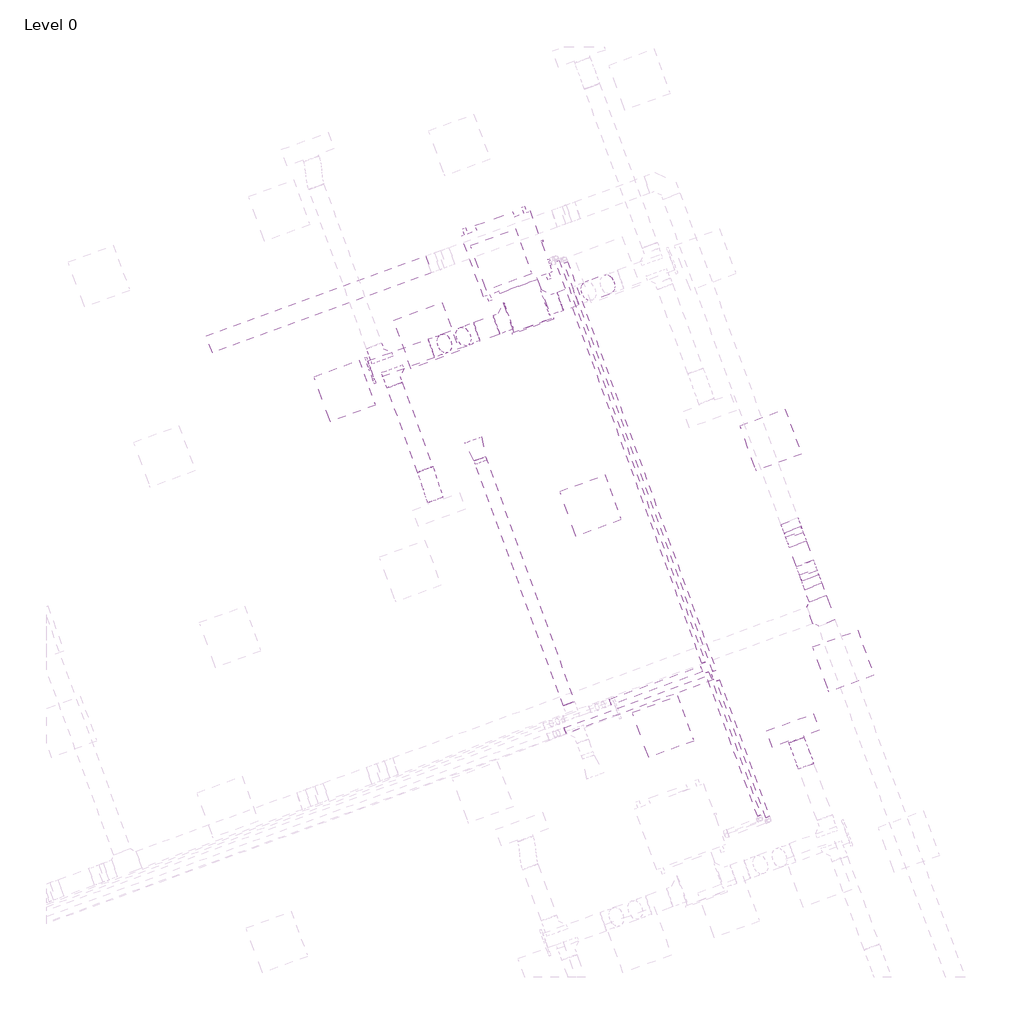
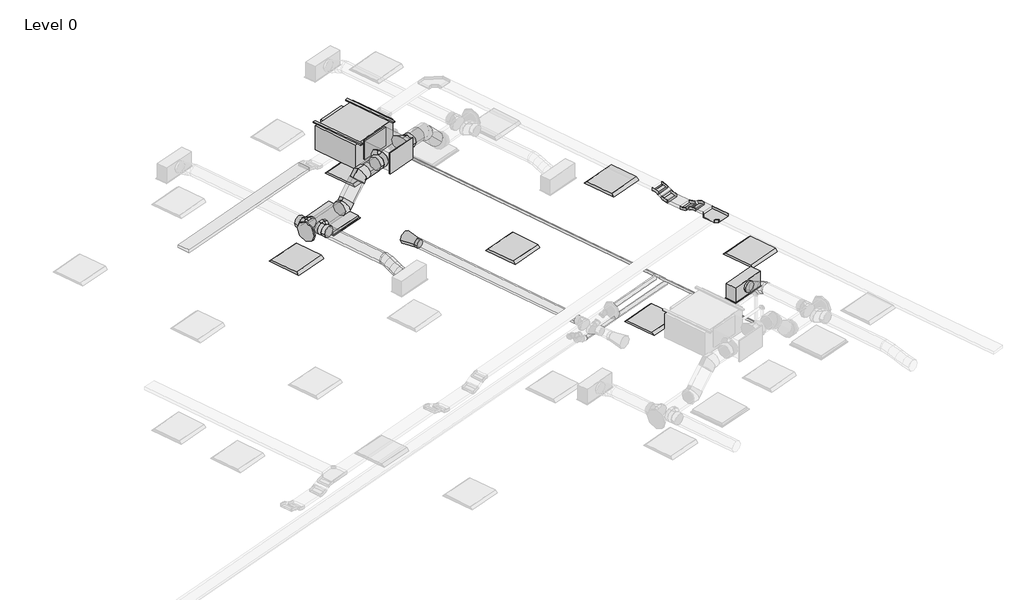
# One storey, part 32 of 34: 10 duct segments, 8 duct fittings, 6 light fixtures, 6 pipe segments, 5 cable carrier fittings, 5 cable carrier segments, 3 air terminals, 1 proxy.
"""IFC4 building model written with IfcOpenShell, lengths in millimetres."""

from ifc_helpers import new_model, si_unit, point, frame, frame_2d, origin, place, context, project, spatial, polyline, circle_curve, ellipse_curve, trimmed, segment, composite_curve, outline, extrude, transform, mapped, element, save
from ifc_brep_helpers import plane_surface, cylinder_surface, advanced_brep
from components import air_terminal_b88b8e4d, return_grille_rectangular_hosted_standard_7b12617c, supply_diffuser_with_plenum_linear_slot_hosted_8c379eed, fan_coil_unit_ceiling_ducted_chw_376_lps_9c8cc8ac, cable_tray_horizontal_tee_standard_d76b5e15, cable_tray_vertical_inside_bend_standard_9a66f55b, cable_tray_vertical_outside_bend_standard_4df2047e, dw144_rectangular_blank_end_standard_1669e3e3, dw144_round_blank_end_standard_e3d0b58b, dw144_round_segmented_bend_slip_joint_standard_636bd9c1, dw144_round_shoe_branch_slip_joint1_standard_2_559552f4, dw144_round_shoe_branch_slip_joint1_standard_2_4a92c8a1, dw144_round_shoe_branch_slip_joint1_standard_2_671412f0, light_fixture_1c7c1157, light_fixture_b730b5ca

model = new_model("IFC4")

# Units and contexts
model_context = context("Model", 3, world=origin())
ifc_project = project(units=[si_unit("LENGTHUNIT", "METRE", prefix="MILLI")], contexts=[model_context])

# Site, building, storey
site = spatial("IfcSite", under=ifc_project)
building = spatial("IfcBuilding", under=site)
storey = spatial("IfcBuildingStorey", under=building, Name="Level 0", Elevation=0.0)

# Air terminals
placement = place(None, origin())
air_terminal_shape = air_terminal_b88b8e4d(model_context)
element("IfcAirTerminal", 1, ObjectType="Supply_Bell_Mouth_Grille : Supply_Bell_Mouth_Grille", at=placement, inside=storey, context=model_context, shape_type="MappedRepresentation", body=[
    mapped(air_terminal_shape, transform((58081.5319053, 19738.0197173, 3050.0), x_axis=(-0.3420201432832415, 0.9396926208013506, 0.0), y_axis=(-0.9396926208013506, -0.3420201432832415, 0.0), z_axis=(0.0, 0.0, 1.0))),
])
return_grille_rectangular_hosted_standard_shape = return_grille_rectangular_hosted_standard_7b12617c(model_context)
element("IfcAirTerminal", 2, ObjectType="Return Grille - Rectangular - Hosted : Standard", at=placement, inside=storey, context=model_context, shape_type="MappedRepresentation", body=[
    mapped(return_grille_rectangular_hosted_standard_shape, transform((57415.537706, 21278.3997704, 2800.0), x_axis=(0.939692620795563, 0.34202014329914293, 0.0), y_axis=(0.34202014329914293, -0.939692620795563, 0.0), z_axis=(0.0, 0.0, -1.0))),
])
supply_diffuser_with_plenum_linear_slot_hosted_shape = supply_diffuser_with_plenum_linear_slot_hosted_8c379eed(model_context)
element("IfcAirTerminal", 3, ObjectType="Supply Diffuser with Plenum - Linear Slot - Hosted : 24\" x 8\"-200 In Inlet  4-Slot", at=placement, inside=storey, context=model_context, shape_type="MappedRepresentation", body=[
    mapped(supply_diffuser_with_plenum_linear_slot_hosted_shape, transform((62001.2706716, 16338.1811806, 2800.0), x_axis=(-0.9396926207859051, -0.3420201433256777, 0.0), y_axis=(-0.3420201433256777, 0.9396926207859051, 0.0), z_axis=(0.0, 0.0, -1.0))),
])

# Proxy
fan_coil_unit_ceiling_ducted_chw_376_lps_shape = fan_coil_unit_ceiling_ducted_chw_376_lps_9c8cc8ac(model_context)
element("IfcBuildingElementProxy", 4, Name="Fan Coil Unit - Ceiling Ducted - CHW : 376 LPS", ObjectType="Fan Coil Unit - Ceiling Ducted - CHW : 376 LPS", at=placement, inside=storey, context=model_context, shape_type="MappedRepresentation", body=[
    mapped(fan_coil_unit_ceiling_ducted_chw_376_lps_shape, transform((58128.3265173, 21761.0235029, 3215.575), x_axis=(0.9396926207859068, 0.34202014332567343, 0.0), y_axis=(-0.34202014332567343, 0.9396926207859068, 0.0), z_axis=(0.0, 0.0, 1.0))),
])

# Cable carrier fittings
cable_tray_horizontal_tee_standard_shape = cable_tray_horizontal_tee_standard_d76b5e15(model_context)
element("IfcCableCarrierFitting", 5, ObjectType="Cable Tray Horizontal Tee : Standard", at=placement, inside=storey, context=model_context, shape_type="MappedRepresentation", body=[
    mapped(cable_tray_horizontal_tee_standard_shape, transform((62366.6932534, 17834.0619919, 3248.9627355), x_axis=(0.3420201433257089, -0.9396926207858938, 0.0), y_axis=(0.9396926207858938, 0.3420201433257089, 0.0), z_axis=(0.0, 0.0, 1.0))),
])
cable_tray_vertical_inside_bend_standard_shape = cable_tray_vertical_inside_bend_standard_9a66f55b(model_context)
element("IfcCableCarrierFitting", 6, ObjectType="Cable Tray Vertical Inside Bend : Standard", at=placement, inside=storey, context=model_context, shape_type="MappedRepresentation", body=[
    mapped(cable_tray_vertical_inside_bend_standard_shape, transform((62173.4812107, 18364.9077165, 3148.9627355), x_axis=(0.3420201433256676, -0.9396926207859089, 0.0), y_axis=(0.0, 0.0, 1.0000000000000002), z_axis=(-0.9396926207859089, -0.3420201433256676, 0.0))),
])
element("IfcCableCarrierFitting", 7, ObjectType="Cable Tray Vertical Inside Bend : Standard", at=placement, inside=storey, context=model_context, shape_type="MappedRepresentation", body=[
    mapped(cable_tray_vertical_inside_bend_standard_shape, transform((62039.8978743, 18731.9249168, 3148.9627355), x_axis=(0.29619813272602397, -0.8137976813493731, -0.5000000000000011), y_axis=(0.17101007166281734, -0.4698463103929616, 0.8660254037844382), z_axis=(-0.9396926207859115, -0.3420201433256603, 0.0))),
])
cable_tray_vertical_outside_bend_standard_shape = cable_tray_vertical_outside_bend_standard_4df2047e(model_context)
element("IfcCableCarrierFitting", 8, ObjectType="Cable Tray Vertical Outside Bend : Standard", at=placement, inside=storey, context=model_context, shape_type="MappedRepresentation", body=[
    mapped(cable_tray_vertical_outside_bend_standard_shape, transform((62232.7208373, 18202.1481802, 3248.9627355), x_axis=(-0.34202014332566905, 0.9396926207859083, 0.0), y_axis=(0.0, 0.0, -1.0), z_axis=(-0.9396926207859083, -0.34202014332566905, 0.0))),
])
element("IfcCableCarrierFitting", 9, ObjectType="Cable Tray Vertical Outside Bend : Standard", at=placement, inside=storey, context=model_context, shape_type="MappedRepresentation", body=[
    mapped(cable_tray_vertical_outside_bend_standard_shape, transform((61980.6582478, 18894.6844531, 3248.9627355), x_axis=(-0.29619813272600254, 0.8137976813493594, 0.500000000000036), y_axis=(-0.1710100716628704, 0.4698463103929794, -0.866025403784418), z_axis=(-0.9396926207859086, -0.3420201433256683, 0.0))),
])

# Cable carrier segments
element("IfcCableCarrierSegment", 10, ObjectType="Perforated Cable Tray", at=placement, inside=storey, context=model_context, shape_type="SweptSolid", body=[
    extrude(outline(polyline([(62416.8304, 18025.2393089), (62205.3995603, 17948.2847766), (62149.9164227, 18100.7234443), (62361.3472624, 18177.6779766), (62416.8304, 18025.2393089)])), frame((0.0, 0.0, 3223.9627355), z_axis=(0.0, 0.0, 1.0), x_axis=(1.0, 0.0, 0.0)), (0.0, 0.0, 1.0), 50.0),
])
element("IfcCableCarrierSegment", 11, ObjectType="Perforated Cable Tray", at=placement, inside=storey, context=model_context, shape_type="SweptSolid", body=[
    extrude(outline(polyline([(0.0, -225.0), (0.0, 0.0), (66.0254038, 0.0), (66.0254037, -225.0), (0.0, -225.0)])), frame((62111.4391566, 18206.4388642, 3193.8184513), z_axis=(-0.1710100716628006, 0.4698463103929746, 0.8660254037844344), x_axis=(-0.29619813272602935, 0.8137976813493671, -0.5000000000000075)), (0.0, 0.0, 1.0), 50.0),
])
element("IfcCableCarrierSegment", 12, ObjectType="Perforated Cable Tray", at=placement, inside=storey, context=model_context, shape_type="SweptSolid", body=[
    extrude(outline(polyline([(62256.2856253, 18466.3324523), (62044.8547856, 18389.3779201), (61957.0934598, 18630.500181), (62168.5242995, 18707.4547132), (62256.2856253, 18466.3324523)])), frame((0.0, 0.0, 3123.9627355), z_axis=(0.0, 0.0, 1.0), x_axis=(1.0, 0.0, 0.0)), (0.0, 0.0, 1.0), 50.0),
])
element("IfcCableCarrierSegment", 13, ObjectType="Perforated Cable Tray", at=placement, inside=storey, context=model_context, shape_type="SweptSolid", body=[
    extrude(outline(polyline([(0.0, -225.0), (0.0, 0.0), (66.0254038, 0.0), (66.0254038, -225.0), (0.0, -225.0)])), frame((61910.0656901, 18759.7079163, 3160.8057494), z_axis=(0.17101007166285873, -0.469846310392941, 0.866025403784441), x_axis=(-0.2961981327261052, 0.8137976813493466, 0.49999999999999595)), (0.0, 0.0, 1.0), 50.0),
])
element("IfcCableCarrierSegment", 14, ObjectType="Perforated Cable Tray", at=placement, inside=storey, context=model_context, shape_type="SweptSolid", body=[
    extrude(outline(polyline([(57404.0868122, 22274.5262105), (57481.0413445, 22063.0953708), (54735.1563016, 21063.6749485), (54658.2017694, 21275.1057882), (57404.0868122, 22274.5262105)])), frame((0.0, 0.0, 3223.9627355), z_axis=(0.0, 0.0, 1.0), x_axis=(1.0, 0.0, 0.0)), (0.0, 0.0, 1.0), 50.0),
])

# Duct fittings
dw144_rectangular_blank_end_standard_shape = dw144_rectangular_blank_end_standard_1669e3e3(model_context)
element("IfcDuctFitting", 15, ObjectType="DW144 Rectangular Blank End : Standard", at=placement, inside=storey, context=model_context, shape_type="MappedRepresentation", body=[
    mapped(dw144_rectangular_blank_end_standard_shape, transform((58744.3549616, 21405.2626341, 3469.575), x_axis=(0.34202014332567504, -0.9396926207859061, 0.0), y_axis=(0.9396926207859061, 0.34202014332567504, 0.0), z_axis=(0.0, 0.0, 1.0))),
])
dw144_round_blank_end_standard_shape = dw144_round_blank_end_standard_e3d0b58b(model_context)
element("IfcDuctFitting", 16, ObjectType="DW144 Round Blank End : Standard", at=placement, inside=storey, context=model_context, shape_type="MappedRepresentation", body=[
    mapped(dw144_round_blank_end_standard_shape, transform((56721.6415567, 20844.3987052, 3072.2088531), x_axis=(-0.9396926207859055, -0.3420201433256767, 0.0), y_axis=(0.3420201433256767, -0.9396926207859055, 0.0), z_axis=(0.0, 0.0, 1.0))),
])
dw144_round_segmented_bend_slip_joint_standard_shape = dw144_round_segmented_bend_slip_joint_standard_636bd9c1(model_context)
element("IfcDuctFitting", 17, ObjectType="DW144 Round Segmented Bend - Slip Joint : Standard", at=placement, inside=storey, context=model_context, shape_type="MappedRepresentation", body=[
    mapped(dw144_round_segmented_bend_slip_joint_standard_shape, transform((57572.2414269, 21153.9917392, 3072.2088531), x_axis=(-0.6644630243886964, -0.24184476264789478, -0.7071067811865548), y_axis=(-0.6644630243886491, -0.24184476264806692, 0.7071067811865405), z_axis=(-0.34202014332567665, 0.9396926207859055, 0.0))),
])
element("IfcDuctFitting", 18, ObjectType="DW144 Round Segmented Bend - Slip Joint : Standard", at=placement, inside=storey, context=model_context, shape_type="MappedRepresentation", body=[
    mapped(dw144_round_segmented_bend_slip_joint_standard_shape, transform((57945.6434628, 21289.8989657, 3469.575), x_axis=(-0.9396926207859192, -0.3420201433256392, 0.0), y_axis=(0.0, 0.0, -1.0000000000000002), z_axis=(0.3420201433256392, -0.9396926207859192, 0.0))),
])
dw144_round_shoe_branch_slip_joint1_standard_2_shape = dw144_round_shoe_branch_slip_joint1_standard_2_559552f4(model_context)
element("IfcDuctFitting", 19, ObjectType="DW144 Round Shoe Branch - Slip Joint1 : Standard 2", at=placement, inside=storey, context=model_context, shape_type="MappedRepresentation", body=[
    mapped(dw144_round_shoe_branch_slip_joint1_standard_2_shape, transform((56809.7266884, 21009.4812928, 3072.2088531), x_axis=(-0.3420201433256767, 0.9396926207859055, 0.0), y_axis=(0.9396926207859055, 0.3420201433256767, 0.0), z_axis=(0.0, 0.0, -1.0))),
])
element("IfcDuctFitting", 20, ObjectType="DW144 Round Shoe Branch - Slip Joint1 : Standard 2", at=placement, inside=storey, context=model_context, shape_type="MappedRepresentation", body=[
    mapped(dw144_round_shoe_branch_slip_joint1_standard_2_shape, transform((56963.7838783, 20799.5090812, 3072.2088531), x_axis=(0.3420201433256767, -0.9396926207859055, 0.0), y_axis=(0.9396926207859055, 0.3420201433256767, 0.0), z_axis=(0.0, 0.0, 1.0))),
])
dw144_round_shoe_branch_slip_joint1_standard_2_2_shape = dw144_round_shoe_branch_slip_joint1_standard_2_4a92c8a1(model_context)
element("IfcDuctFitting", 21, ObjectType="DW144 Round Shoe Branch - Slip Joint1 : Standard 2", at=placement, inside=storey, context=model_context, shape_type="MappedRepresentation", body=[
    mapped(dw144_round_shoe_branch_slip_joint1_standard_2_2_shape, transform((58922.9237884, 21645.5999148, 3469.575), x_axis=(0.9396926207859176, 0.3420201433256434, 0.0), y_axis=(0.3420201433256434, -0.9396926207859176, 0.0), z_axis=(0.0, 0.0, -1.0))),
])
dw144_round_shoe_branch_slip_joint1_standard_2_3_shape = dw144_round_shoe_branch_slip_joint1_standard_2_671412f0(model_context)
element("IfcDuctFitting", 22, ObjectType="DW144 Round Shoe Branch - Slip Joint1 : Standard 2", at=placement, inside=storey, context=model_context, shape_type="MappedRepresentation", body=[
    mapped(dw144_round_shoe_branch_slip_joint1_standard_2_3_shape, transform((58453.077478, 21474.5898431, 3469.575), x_axis=(-0.9396926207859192, -0.3420201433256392, 0.0), y_axis=(-0.3420201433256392, 0.9396926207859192, 0.0), z_axis=(0.0, 0.0, -1.0))),
])

# Duct segments
element("IfcDuctSegment", 23, ObjectType="DW144 Flanged Med Radius Bend / Shoe Branch", at=placement, inside=storey, context=model_context, shape_type="SweptSolid", body=[
    extrude(outline(polyline([(58331.71814, 21808.0218841), (58801.5644504, 21979.0319557), (58979.2781168, 21490.76767), (58509.4318064, 21319.7575983), (58331.71814, 21808.0218841)])), frame((0.0, 0.0, 3294.575), z_axis=(0.0, 0.0, 1.0), x_axis=(1.0, 0.0, 0.0)), (0.0, 0.0, 1.0), 350.0),
])
element("IfcDuctSegment", 24, ObjectType="DW144 Segmented Bend / Shoe Branch", at=placement, inside=storey, context=model_context, shape_type="SweptSolid", body=[
    extrude(outline(composite_curve([segment(trimmed(circle_curve(frame_2d((0.0, 125.0)), 125.0), [point((125.0, 125.0))], [point((0.0, 0.0))], False, "CARTESIAN"), True, "CONTINUOUS"), segment(trimmed(circle_curve(frame_2d((0.0, 125.0)), 125.0), [point((0.0, 0.0))], [point((-125.0, 125.0))], False, "CARTESIAN"), True, "CONTINUOUS"), segment(trimmed(circle_curve(frame_2d((0.0, 125.0)), 125.0), [point((-125.0, 125.0))], [point((0.0, 250.0))], False, "CARTESIAN"), True, "CONTINUOUS"), segment(trimmed(circle_curve(frame_2d((0.0, 125.0)), 125.0), [point((0.0, 250.0))], [point((125.0, 125.0))], False, "CARTESIAN"), True, "CONTINUOUS")], self_intersect=False)), frame((56721.6415567, 20844.3987052, 3197.2088531), z_axis=(0.9396926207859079, 0.3420201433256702, 0.0), x_axis=(0.3420201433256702, -0.9396926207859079, 0.0)), (0.0, 0.0, 1.0), 801.6360845),
])
element("IfcDuctSegment", 25, ObjectType="DW144 Segmented Bend / Shoe Branch", at=placement, inside=storey, context=model_context, shape_type="SweptSolid", body=[
    extrude(outline(composite_curve([segment(trimmed(circle_curve(frame_2d((0.0, 100.0)), 100.0), [point((100.0, 100.0))], [point((0.0, 0.0))], False, "CARTESIAN"), True, "CONTINUOUS"), segment(trimmed(circle_curve(frame_2d((0.0, 100.0)), 100.0), [point((0.0, 0.0))], [point((-100.0, 100.0))], False, "CARTESIAN"), True, "CONTINUOUS"), segment(trimmed(circle_curve(frame_2d((0.0, 100.0)), 100.0), [point((-100.0, 100.0))], [point((0.0, 200.0))], False, "CARTESIAN"), True, "CONTINUOUS"), segment(trimmed(circle_curve(frame_2d((0.0, 100.0)), 100.0), [point((0.0, 200.0))], [point((100.0, 100.0))], False, "CARTESIAN"), True, "CONTINUOUS")], self_intersect=False)), frame((57399.1073496, 19603.4676736, 3172.2088531), z_axis=(-0.3420201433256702, 0.9396926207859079, 0.0), x_axis=(0.9396926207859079, 0.3420201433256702, 0.0)), (0.0, 0.0, 1.0), 1122.8006809),
])
element("IfcDuctSegment", 26, ObjectType="DW144 Segmented Bend / Shoe Branch", at=placement, inside=storey, context=model_context, shape_type="SweptSolid", body=[
    extrude(outline(composite_curve([segment(trimmed(circle_curve(frame_2d((0.0, 125.0)), 125.0), [point((125.0, 125.0))], [point((0.0, 0.0))], False, "CARTESIAN"), True, "CONTINUOUS"), segment(trimmed(circle_curve(frame_2d((0.0, 125.0)), 125.0), [point((0.0, 0.0))], [point((-125.0, 125.0))], False, "CARTESIAN"), True, "CONTINUOUS"), segment(trimmed(circle_curve(frame_2d((0.0, 125.0)), 125.0), [point((-125.0, 125.0))], [point((0.0, 250.0))], False, "CARTESIAN"), True, "CONTINUOUS"), segment(trimmed(circle_curve(frame_2d((0.0, 125.0)), 125.0), [point((0.0, 250.0))], [point((125.0, 125.0))], False, "CARTESIAN"), True, "CONTINUOUS")], self_intersect=False)), frame((59087.3699971, 21705.4534398, 3594.575), z_axis=(0.9396926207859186, 0.3420201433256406, 0.0), x_axis=(0.3420201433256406, -0.9396926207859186, 0.0)), (0.0, 0.0, 1.0), 201.4466094),
])
element("IfcDuctSegment", 27, ObjectType="DW144 Segmented Bend / Shoe Branch", at=placement, inside=storey, context=model_context, shape_type="SweptSolid", body=[
    extrude(outline(composite_curve([segment(trimmed(circle_curve(frame_2d((0.0, -125.0)), 125.0), [point((-125.0, -125.0))], [point((0.0, 0.0))], False, "CARTESIAN"), True, "CONTINUOUS"), segment(trimmed(circle_curve(frame_2d((0.0, -125.0)), 125.0), [point((0.0, 0.0))], [point((125.0, -125.0))], False, "CARTESIAN"), True, "CONTINUOUS"), segment(trimmed(circle_curve(frame_2d((0.0, -125.0)), 125.0), [point((125.0, -125.0))], [point((0.0, -250.0))], False, "CARTESIAN"), True, "CONTINUOUS"), segment(trimmed(circle_curve(frame_2d((0.0, -125.0)), 125.0), [point((0.0, -250.0))], [point((-125.0, -125.0))], False, "CARTESIAN"), True, "CONTINUOUS")], self_intersect=False)), frame((58042.9518198, 21325.3163112, 3344.575), z_axis=(0.9396926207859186, 0.3420201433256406, 0.0), x_axis=(0.3420201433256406, -0.9396926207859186, 0.0)), (0.0, 0.0, 1.0), 261.4466094),
])
element("IfcDuctSegment", 28, ObjectType="DW144 Segmented Bend / Shoe Branch", at=placement, inside=storey, context=model_context, shape_type="SweptSolid", body=[
    extrude(outline(composite_curve([segment(trimmed(circle_curve(frame_2d((0.0, -125.0)), 125.0), [point((57.2076922, -236.1408113))], [point((-111.1408114, -182.2076922))], False, "CARTESIAN"), True, "CONTINUOUS"), segment(trimmed(circle_curve(frame_2d((0.0, -125.0)), 125.0), [point((-111.1408114, -182.2076922))], [point((-57.2076923, -13.8591886))], False, "CARTESIAN"), True, "CONTINUOUS"), segment(trimmed(circle_curve(frame_2d((0.0, -125.0)), 125.0), [point((-57.2076923, -13.8591886))], [point((111.1408113, -67.7923077))], False, "CARTESIAN"), True, "CONTINUOUS"), segment(trimmed(circle_curve(frame_2d((0.0, -125.0)), 125.0), [point((111.1408113, -67.7923077))], [point((57.2076922, -236.1408113))], False, "CARTESIAN"), True, "CONTINUOUS")], self_intersect=False)), frame((59678.5708833, 22038.9065459, 3185.884105), z_axis=(-0.6644630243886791, -0.2418447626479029, 0.7071067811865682), x_axis=(0.7473211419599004, -0.21503058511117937, 0.6287073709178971)), (0.0, 0.0, 1.0), 354.8538129),
])
element("IfcDuctSegment", 29, ObjectType="DW144 Segmented Bend / Shoe Branch", at=placement, inside=storey, context=model_context, shape_type="SweptSolid", body=[
    extrude(outline(composite_curve([segment(trimmed(circle_curve(frame_2d((0.0, -124.9999999)), 125.0), [point((-57.2076923, -13.8591886))], [point((111.1408113, -67.7923077))], False, "CARTESIAN"), True, "CONTINUOUS"), segment(trimmed(circle_curve(frame_2d((0.0, -124.9999999)), 125.0), [point((111.1408113, -67.7923077))], [point((57.2076923, -236.1408113))], False, "CARTESIAN"), True, "CONTINUOUS"), segment(trimmed(circle_curve(frame_2d((0.0, -124.9999999)), 125.0), [point((57.2076923, -236.1408113))], [point((-111.1408114, -182.2076923))], False, "CARTESIAN"), True, "CONTINUOUS"), segment(trimmed(circle_curve(frame_2d((0.0, -124.9999999)), 125.0), [point((-111.1408114, -182.2076923))], [point((-57.2076923, -13.8591886))], False, "CARTESIAN"), True, "CONTINUOUS")], self_intersect=False)), frame((57641.048826, 21297.3091654, 3104.9802107), z_axis=(0.664463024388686, 0.24184476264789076, 0.7071067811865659), x_axis=(0.7473211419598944, -0.21503058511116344, -0.6287073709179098)), (0.0, 0.0, 1.0), 354.8538129),
])
element("IfcDuctSegment", 30, ObjectType="DW144 Segmented Bend / Shoe Branch", at=placement, inside=storey, context=model_context, shape_type="SweptSolid", body=[
    extrude(outline(composite_curve([segment(trimmed(circle_curve(frame_2d((0.0, 75.0)), 75.0), [point((75.0, 75.0))], [point((0.0, 0.0))], False, "CARTESIAN"), True, "CONTINUOUS"), segment(trimmed(circle_curve(frame_2d((0.0, 75.0)), 75.0), [point((0.0, 0.0))], [point((-75.0000001, 75.0))], False, "CARTESIAN"), True, "CONTINUOUS"), segment(trimmed(circle_curve(frame_2d((0.0, 75.0)), 75.0), [point((-75.0000001, 75.0))], [point((0.0, 150.0))], False, "CARTESIAN"), True, "CONTINUOUS"), segment(trimmed(circle_curve(frame_2d((0.0, 75.0)), 75.0), [point((0.0, 150.0))], [point((75.0, 75.0))], False, "CARTESIAN"), True, "CONTINUOUS")], self_intersect=False)), frame((59197.2979604, 16672.4776751, 3125.0), z_axis=(-0.3420201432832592, 0.9396926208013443, 0.0), x_axis=(0.9396926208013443, 0.3420201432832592, 0.0)), (0.0, 0.0, 1.0), 3262.2817019),
])
element("IfcDuctSegment", 31, ObjectType="Flex - Round", at=placement, inside=storey, context=model_context, shape_type="AdvancedBrep", body=[
    advanced_brep(
    [(57493.0766117, 19637.669688, 3072.2088531), (57399.1073496, 19603.4676736, 2972.2088531), (57305.1380875, 19569.2656593, 3072.2088531), (57399.1073496, 19603.4676736, 3172.2088531), (57499.4980825, 19620.026842, 3072.2088531), (57401.4856469, 19596.9333555, 2972.2088531), (57310.8290271, 19553.6299313, 3072.2088531), (57408.8414627, 19576.7234177, 3172.2088531), (57619.8473001, 19255.1615739, 2954.4), (57525.878038, 19220.9595595, 3054.4), (57431.9087759, 19186.7575452, 2954.4), (57525.878038, 19220.9595595, 2854.4), (57527.3186901, 19538.1260265, 3053.3905604), (57422.5860609, 19534.8160527, 2957.9362042), (57337.4354126, 19475.3036527, 3054.2118792), (57442.1680418, 19478.6136265, 3149.6662355), (57557.67714, 19442.8628872, 3012.5672617), (57450.2568433, 19447.9866655, 2920.7270377), (57367.3082476, 19381.5643459, 3014.0415914), (57474.7285444, 19376.4405676, 3105.8818154), (57587.5499751, 19349.1235804, 2972.3969739), (57482.8173458, 19345.8136066, 2876.9426177), (57397.6666975, 19286.3012066, 2973.2182927), (57502.3993268, 19289.6111804, 3068.6726489), (57614.1563605, 19270.7973019, 2954.4), (57516.1439249, 19247.7038155, 2854.4), (57425.4873052, 19204.4003912, 2954.4), (57523.4997407, 19227.4938776, 3054.4)],
    [
        (0, 1, circle_curve(frame((57399.1073496, 19603.4676736, 3072.2088531), z_axis=(-0.3420201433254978, 0.9396926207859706, 0.0), x_axis=(0.9396926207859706, 0.3420201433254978, 0.0)), 100.0)),
        (1, 2, circle_curve(frame((57399.1073496, 19603.4676736, 3072.2088531), z_axis=(-0.3420201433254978, 0.9396926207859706, 0.0), x_axis=(0.9396926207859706, 0.3420201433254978, 0.0)), 100.0)),
        (2, 3, circle_curve(frame((57399.1073496, 19603.4676736, 3072.2088531), z_axis=(-0.3420201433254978, 0.9396926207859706, 0.0), x_axis=(0.9396926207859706, 0.3420201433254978, 0.0)), 100.0)),
        (3, 0, circle_curve(frame((57399.1073496, 19603.4676736, 3072.2088531), z_axis=(-0.3420201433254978, 0.9396926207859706, 0.0), x_axis=(0.9396926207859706, 0.3420201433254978, 0.0)), 100.0)),
        (0, 4),
        (4, 5, ellipse_curve(frame((57405.1635548, 19586.8283866, 3072.2088531), z_axis=(-0.33006294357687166, 0.9378849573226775, 0.10691239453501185), x_axis=(-0.12907576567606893, 0.06735376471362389, -0.9893446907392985)), 100.582195, 100.0)),
        (5, 1),
        (5, 6, ellipse_curve(frame((57405.1635548, 19586.8283866, 3072.2088531), z_axis=(-0.33006294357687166, 0.9378849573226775, 0.10691239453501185), x_axis=(-0.12907576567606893, 0.06735376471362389, -0.9893446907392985)), 100.582195, 100.0)),
        (6, 2),
        (6, 7, ellipse_curve(frame((57405.1635548, 19586.8283866, 3072.2088531), z_axis=(-0.33006294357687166, 0.9378849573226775, 0.10691239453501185), x_axis=(-0.12907576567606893, 0.06735376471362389, -0.9893446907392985)), 100.582195, 100.0)),
        (7, 3),
        (7, 4, ellipse_curve(frame((57405.1635548, 19586.8283866, 3072.2088531), z_axis=(-0.33006294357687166, 0.9378849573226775, 0.10691239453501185), x_axis=(-0.12907576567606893, 0.06735376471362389, -0.9893446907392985)), 100.582195, 100.0)),
        (8, 9, circle_curve(frame((57525.878038, 19220.9595595, 2954.4), z_axis=(0.3420201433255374, -0.9396926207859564, 0.0), x_axis=(0.9396926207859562, 0.3420201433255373, 0.0)), 100.0)),
        (9, 10, circle_curve(frame((57525.878038, 19220.9595595, 2954.4), z_axis=(0.3420201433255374, -0.9396926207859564, 0.0), x_axis=(0.9396926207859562, 0.3420201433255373, 0.0)), 100.0)),
        (10, 11, circle_curve(frame((57525.878038, 19220.9595595, 2954.4), z_axis=(0.3420201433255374, -0.9396926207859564, 0.0), x_axis=(0.9396926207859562, 0.3420201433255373, 0.0)), 100.0)),
        (11, 8, circle_curve(frame((57525.878038, 19220.9595595, 2954.4), z_axis=(0.3420201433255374, -0.9396926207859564, 0.0), x_axis=(0.9396926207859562, 0.3420201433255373, 0.0)), 100.0)),
        (4, 12),
        (12, 13, ellipse_curve(frame((57432.3770513, 19506.7148396, 3053.8012198), z_axis=(-0.2988301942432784, 0.9071022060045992, 0.2964221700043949), x_axis=(-0.1905324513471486, 0.24764957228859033, -0.9499300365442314)), 100.3812182, 100.0)),
        (13, 5),
        (13, 14, ellipse_curve(frame((57432.3770513, 19506.7148396, 3053.8012198), z_axis=(-0.2988301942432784, 0.9071022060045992, 0.2964221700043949), x_axis=(-0.1905324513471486, 0.24764957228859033, -0.9499300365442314)), 100.3812182, 100.0)),
        (14, 6),
        (14, 15, ellipse_curve(frame((57432.3770513, 19506.7148396, 3053.8012198), z_axis=(-0.2988301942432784, 0.9071022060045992, 0.2964221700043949), x_axis=(-0.1905324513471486, 0.24764957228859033, -0.9499300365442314)), 100.3812182, 100.0)),
        (15, 7),
        (15, 12, ellipse_curve(frame((57432.3770513, 19506.7148396, 3053.8012198), z_axis=(-0.2988301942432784, 0.9071022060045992, 0.2964221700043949), x_axis=(-0.1905324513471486, 0.24764957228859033, -0.9499300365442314)), 100.3812182, 100.0)),
        (12, 16),
        (16, 17, circle_curve(frame((57462.4926938, 19412.2136166, 3013.3044266), z_axis=(-0.2811058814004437, 0.8820947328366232, 0.37800577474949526), x_axis=(0.9518444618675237, 0.30649270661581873, -0.007371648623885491)), 100.0)),
        (17, 13),
        (17, 18, circle_curve(frame((57462.4926938, 19412.2136166, 3013.3044266), z_axis=(-0.2811058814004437, 0.8820947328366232, 0.37800577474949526), x_axis=(0.9518444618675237, 0.30649270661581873, -0.007371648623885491)), 100.0)),
        (18, 14),
        (18, 19, circle_curve(frame((57462.4926938, 19412.2136166, 3013.3044266), z_axis=(-0.2811058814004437, 0.8820947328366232, 0.37800577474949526), x_axis=(0.9518444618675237, 0.30649270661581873, -0.007371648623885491)), 100.0)),
        (19, 15),
        (19, 16, circle_curve(frame((57462.4926938, 19412.2136166, 3013.3044266), z_axis=(-0.2811058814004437, 0.8820947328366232, 0.37800577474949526), x_axis=(0.9518444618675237, 0.30649270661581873, -0.007371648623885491)), 100.0)),
        (16, 20),
        (20, 21, ellipse_curve(frame((57492.6083363, 19317.7123935, 2972.8076333), z_axis=(-0.29883019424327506, 0.9071022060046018, 0.29642217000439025), x_axis=(0.19053245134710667, -0.24764957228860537, 0.9499300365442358)), 100.3812182, 100.0)),
        (21, 17),
        (21, 22, ellipse_curve(frame((57492.6083363, 19317.7123935, 2972.8076333), z_axis=(-0.29883019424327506, 0.9071022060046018, 0.29642217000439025), x_axis=(0.19053245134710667, -0.24764957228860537, 0.9499300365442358)), 100.3812182, 100.0)),
        (22, 18),
        (22, 23, ellipse_curve(frame((57492.6083363, 19317.7123935, 2972.8076333), z_axis=(-0.29883019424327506, 0.9071022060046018, 0.29642217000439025), x_axis=(0.19053245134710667, -0.24764957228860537, 0.9499300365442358)), 100.3812182, 100.0)),
        (23, 19),
        (23, 20, ellipse_curve(frame((57492.6083363, 19317.7123935, 2972.8076333), z_axis=(-0.29883019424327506, 0.9071022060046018, 0.29642217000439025), x_axis=(0.19053245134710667, -0.24764957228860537, 0.9499300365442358)), 100.3812182, 100.0)),
        (20, 24),
        (24, 25, ellipse_curve(frame((57519.8218328, 19237.5988465, 2954.4), z_axis=(-0.3300629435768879, 0.9378849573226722, 0.10691239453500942), x_axis=(0.1290757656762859, -0.06735376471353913, 0.989344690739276)), 100.582195, 100.0)),
        (25, 21),
        (25, 26, ellipse_curve(frame((57519.8218328, 19237.5988465, 2954.4), z_axis=(-0.3300629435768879, 0.9378849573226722, 0.10691239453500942), x_axis=(0.1290757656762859, -0.06735376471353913, 0.989344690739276)), 100.582195, 100.0)),
        (26, 22),
        (26, 27, ellipse_curve(frame((57519.8218328, 19237.5988465, 2954.4), z_axis=(-0.3300629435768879, 0.9378849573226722, 0.10691239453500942), x_axis=(0.1290757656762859, -0.06735376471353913, 0.989344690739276)), 100.582195, 100.0)),
        (27, 23),
        (27, 24, ellipse_curve(frame((57519.8218328, 19237.5988465, 2954.4), z_axis=(-0.3300629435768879, 0.9378849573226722, 0.10691239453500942), x_axis=(0.1290757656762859, -0.06735376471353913, 0.989344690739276)), 100.582195, 100.0)),
        (24, 8),
        (11, 25),
        (10, 26),
        (9, 27),
    ],
    [
        plane_surface(frame((57399.1073496, 19603.4676736, 2972.2088531), z_axis=(-0.3420201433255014, 0.9396926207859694, 0.0), x_axis=(0.9396926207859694, 0.3420201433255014, 0.0))),
        cylinder_surface(frame((57399.1073496, 19603.4676736, 3072.2088531), z_axis=(-0.3420201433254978, 0.9396926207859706, 0.0), x_axis=(0.9396926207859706, 0.3420201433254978, 0.0)), 100.0),
        plane_surface(frame((57525.878038, 19220.9595595, 2854.4), z_axis=(0.3420201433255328, -0.9396926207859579, 0.0), x_axis=(0.9396926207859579, 0.3420201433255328, 0.0))),
        cylinder_surface(frame((57405.1635548, 19586.8283866, 3072.2088531), z_axis=(-0.31428476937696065, 0.9252198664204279, 0.21258711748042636), x_axis=(0.9467017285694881, 0.32210352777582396, -0.0022703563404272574)), 100.0),
        cylinder_surface(frame((57432.3770513, 19506.7148396, 3053.8012198), z_axis=(-0.2811058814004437, 0.8820947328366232, 0.37800577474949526), x_axis=(0.9518444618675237, 0.30649270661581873, -0.007371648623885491)), 100.0),
        cylinder_surface(frame((57462.4926938, 19412.2136166, 3013.3044266), z_axis=(-0.2811058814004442, 0.8820947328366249, 0.3780057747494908), x_axis=(0.9518444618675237, 0.3064927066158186, -0.007371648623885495)), 100.0),
        cylinder_surface(frame((57492.6083363, 19317.7123935, 2972.8076333), z_axis=(-0.31428476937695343, 0.9252198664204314, 0.21258711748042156), x_axis=(0.9467017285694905, 0.3221035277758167, -0.0022703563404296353)), 100.0),
        cylinder_surface(frame((57519.8218328, 19237.5988465, 2954.4), z_axis=(-0.3420201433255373, 0.9396926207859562, 0.0), x_axis=(0.9396926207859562, 0.3420201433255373, 0.0)), 100.0),
    ],
    [
        (0, [[1, 2, 3, 4]]),
        (1, [[-1, 5, 6, 7]]),
        (1, [[-2, -7, 8, 9]]),
        (1, [[-3, -9, 10, 11]]),
        (1, [[-4, -11, 12, -5]]),
        (2, [[13, 14, 15, 16]]),
        (3, [[-6, 17, 18, 19]]),
        (3, [[-8, -19, 20, 21]]),
        (3, [[-10, -21, 22, 23]]),
        (3, [[-12, -23, 24, -17]]),
        (4, [[-18, 25, 26, 27]]),
        (4, [[-20, -27, 28, 29]]),
        (4, [[-22, -29, 30, 31]]),
        (4, [[-24, -31, 32, -25]]),
        (5, [[-26, 33, 34, 35]]),
        (5, [[-28, -35, 36, 37]]),
        (5, [[-30, -37, 38, 39]]),
        (5, [[-32, -39, 40, -33]]),
        (6, [[-34, 41, 42, 43]]),
        (6, [[-36, -43, 44, 45]]),
        (6, [[-38, -45, 46, 47]]),
        (6, [[-40, -47, 48, -41]]),
        (7, [[-42, 49, -16, 50]]),
        (7, [[-44, -50, -15, 51]]),
        (7, [[-46, -51, -14, 52]]),
        (7, [[-48, -52, -13, -49]]),
    ],
),
])
element("IfcDuctSegment", 32, ObjectType="Flex - Round", at=placement, inside=storey, context=model_context, shape_type="AdvancedBrep", body=[
    advanced_brep(
    [(62070.0387428, 15856.9594371, 3072.2088531), (62164.8595282, 15888.724491, 2972.2088531), (62259.6803136, 15920.489545, 3072.2088531), (62164.8595282, 15888.724491, 3172.2088531), (62062.8978453, 15878.2754881, 3072.2088531), (62161.8405733, 15897.7362709, 2972.2088531), (62252.0842997, 15943.1641486, 3072.2088531), (62153.1415717, 15923.7033658, 3172.2088531), (61951.39074, 16182.8538554, 2955.1902253), (62046.099637, 16217.3250748, 3054.3968777), (62139.3233961, 16251.2557482, 2953.6097747), (62044.6144992, 16216.7845288, 2854.4031223), (62041.4461278, 15939.335541, 3054.1476892), (62147.0701791, 15939.7786414, 2959.7729951), (62229.8095608, 16006.5668452, 3053.4547505), (62124.1855096, 16006.1237448, 3147.8294445), (62012.3252458, 16018.9137687, 3014.0303512), (62120.3213538, 16012.8747829, 2922.923436), (62200.1377911, 16087.650476, 3012.5785019), (62092.1416832, 16093.6894618, 3103.6854171), (61982.4599011, 16098.8007868, 2973.6587219), (62087.4873233, 16100.7027593, 2878.5387713), (62170.0872638, 16168.0328405, 2971.9565447), (62065.0598416, 16166.130868, 3067.0764953), (61958.3787177, 16163.6545446, 2955.1902253), (62056.0167058, 16185.4572236, 2854.4031223), (62146.1648002, 16232.459145, 2953.6097747), (62048.5268121, 16210.6564659, 3054.3968777)],
    [
        (0, 1, circle_curve(frame((62164.8595282, 15888.724491, 3072.2088531), z_axis=(0.31765053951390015, -0.9482078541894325, 0.0), x_axis=(-0.9482078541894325, -0.31765053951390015, 0.0)), 100.0)),
        (1, 2, circle_curve(frame((62164.8595282, 15888.724491, 3072.2088531), z_axis=(0.31765053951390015, -0.9482078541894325, 0.0), x_axis=(-0.9482078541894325, -0.31765053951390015, 0.0)), 100.0)),
        (2, 3, circle_curve(frame((62164.8595282, 15888.724491, 3072.2088531), z_axis=(0.31765053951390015, -0.9482078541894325, 0.0), x_axis=(-0.9482078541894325, -0.31765053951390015, 0.0)), 100.0)),
        (3, 0, circle_curve(frame((62164.8595282, 15888.724491, 3072.2088531), z_axis=(0.31765053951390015, -0.9482078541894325, 0.0), x_axis=(-0.9482078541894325, -0.31765053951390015, 0.0)), 100.0)),
        (0, 4),
        (4, 5, ellipse_curve(frame((62157.4910725, 15910.7198184, 3072.2088531), z_axis=(0.3214358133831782, -0.9371637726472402, 0.13565795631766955), x_axis=(-0.00593082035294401, -0.1452502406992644, -0.9893771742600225)), 100.9356422, 100.0)),
        (5, 1),
        (5, 6, ellipse_curve(frame((62157.4910725, 15910.7198184, 3072.2088531), z_axis=(0.3214358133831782, -0.9371637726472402, 0.13565795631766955), x_axis=(-0.00593082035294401, -0.1452502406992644, -0.9893771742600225)), 100.9356422, 100.0)),
        (6, 2),
        (6, 7, ellipse_curve(frame((62157.4910725, 15910.7198184, 3072.2088531), z_axis=(0.3214358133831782, -0.9371637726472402, 0.13565795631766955), x_axis=(-0.00593082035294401, -0.1452502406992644, -0.9893771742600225)), 100.9356422, 100.0)),
        (7, 3),
        (7, 4, ellipse_curve(frame((62157.4910725, 15910.7198184, 3072.2088531), z_axis=(0.3214358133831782, -0.9371637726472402, 0.13565795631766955), x_axis=(-0.00593082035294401, -0.1452502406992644, -0.9893771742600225)), 100.9356422, 100.0)),
        (8, 9, circle_curve(frame((62045.3570681, 16217.0548018, 2954.4), z_axis=(-0.342020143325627, 0.9396926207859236, 0.0), x_axis=(-0.9396632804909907, -0.34200946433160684, 0.007902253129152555)), 100.0)),
        (9, 10, circle_curve(frame((62045.3570681, 16217.0548018, 2954.4), z_axis=(-0.342020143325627, 0.9396926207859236, 0.0), x_axis=(-0.9396632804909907, -0.34200946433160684, 0.007902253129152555)), 100.0)),
        (10, 11, circle_curve(frame((62045.3570681, 16217.0548018, 2954.4), z_axis=(-0.342020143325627, 0.9396926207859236, 0.0), x_axis=(-0.9396632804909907, -0.34200946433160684, 0.007902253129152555)), 100.0)),
        (11, 8, circle_curve(frame((62045.3570681, 16217.0548018, 2954.4), z_axis=(-0.342020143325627, 0.9396926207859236, 0.0), x_axis=(-0.9396632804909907, -0.34200946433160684, 0.007902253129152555)), 100.0)),
        (4, 12),
        (12, 13, ellipse_curve(frame((62135.6278443, 15972.9511931, 3053.8012198), z_axis=(0.3160800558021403, -0.8819650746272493, 0.3496155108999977), x_axis=(0.050857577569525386, -0.35222682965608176, -0.9345318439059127)), 100.3642371, 100.0)),
        (13, 5),
        (13, 14, ellipse_curve(frame((62135.6278443, 15972.9511931, 3053.8012198), z_axis=(0.3160800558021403, -0.8819650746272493, 0.3496155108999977), x_axis=(0.050857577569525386, -0.35222682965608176, -0.9345318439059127)), 100.3642371, 100.0)),
        (14, 6),
        (14, 15, ellipse_curve(frame((62135.6278443, 15972.9511931, 3053.8012198), z_axis=(0.3160800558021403, -0.8819650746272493, 0.3496155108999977), x_axis=(0.050857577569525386, -0.35222682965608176, -0.9345318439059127)), 100.3642371, 100.0)),
        (15, 7),
        (15, 12, ellipse_curve(frame((62135.6278443, 15972.9511931, 3053.8012198), z_axis=(0.3160800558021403, -0.8819650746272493, 0.3496155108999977), x_axis=(0.050857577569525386, -0.35222682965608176, -0.9345318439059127)), 100.3642371, 100.0)),
        (12, 16),
        (16, 17, ellipse_curve(frame((62106.2315185, 16053.2821224, 3013.3044266), z_axis=(0.3135563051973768, -0.8477071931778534, 0.4278725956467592), x_axis=(-0.9390190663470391, -0.3437936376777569, 0.007009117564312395)), 100.0004937, 100.0)),
        (17, 13),
        (17, 18, ellipse_curve(frame((62106.2315185, 16053.2821224, 3013.3044266), z_axis=(0.3135563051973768, -0.8477071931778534, 0.4278725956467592), x_axis=(-0.9390190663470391, -0.3437936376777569, 0.007009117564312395)), 100.0004937, 100.0)),
        (18, 14),
        (18, 19, ellipse_curve(frame((62106.2315185, 16053.2821224, 3013.3044266), z_axis=(0.3135563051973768, -0.8477071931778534, 0.4278725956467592), x_axis=(-0.9390190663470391, -0.3437936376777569, 0.007009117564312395)), 100.0004937, 100.0)),
        (19, 15),
        (19, 16, ellipse_curve(frame((62106.2315185, 16053.2821224, 3013.3044266), z_axis=(0.3135563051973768, -0.8477071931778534, 0.4278725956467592), x_axis=(-0.9390190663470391, -0.3437936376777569, 0.007009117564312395)), 100.0004937, 100.0)),
        (16, 20),
        (20, 21, ellipse_curve(frame((62076.2735824, 16133.4168136, 2972.8076333), z_axis=(0.32775514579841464, -0.8797914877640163, 0.34430147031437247), x_axis=(-0.10944660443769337, 0.32662018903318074, 0.9387974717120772)), 100.4120319, 100.0)),
        (21, 17),
        (21, 22, ellipse_curve(frame((62076.2735824, 16133.4168136, 2972.8076333), z_axis=(0.32775514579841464, -0.8797914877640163, 0.34430147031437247), x_axis=(-0.10944660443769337, 0.32662018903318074, 0.9387974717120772)), 100.4120319, 100.0)),
        (22, 18),
        (22, 23, ellipse_curve(frame((62076.2735824, 16133.4168136, 2972.8076333), z_axis=(0.32775514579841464, -0.8797914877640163, 0.34430147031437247), x_axis=(-0.10944660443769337, 0.32662018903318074, 0.9387974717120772)), 100.4120319, 100.0)),
        (23, 19),
        (23, 20, ellipse_curve(frame((62076.2735824, 16133.4168136, 2972.8076333), z_axis=(0.32775514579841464, -0.8797914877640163, 0.34430147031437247), x_axis=(-0.10944660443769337, 0.32662018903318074, 0.9387974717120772)), 100.4120319, 100.0)),
        (20, 24),
        (24, 25, ellipse_curve(frame((62052.271759, 16198.0568448, 2954.4), z_axis=(0.34207527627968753, -0.9306268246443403, 0.13007005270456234), x_axis=(-0.02192464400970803, 0.1304783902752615, 0.9912087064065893)), 100.8573078, 100.0)),
        (25, 21),
        (25, 26, ellipse_curve(frame((62052.271759, 16198.0568448, 2954.4), z_axis=(0.34207527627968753, -0.9306268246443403, 0.13007005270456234), x_axis=(-0.02192464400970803, 0.1304783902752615, 0.9912087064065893)), 100.8573078, 100.0)),
        (26, 22),
        (26, 27, ellipse_curve(frame((62052.271759, 16198.0568448, 2954.4), z_axis=(0.34207527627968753, -0.9306268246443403, 0.13007005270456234), x_axis=(-0.02192464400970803, 0.1304783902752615, 0.9912087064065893)), 100.8573078, 100.0)),
        (27, 23),
        (27, 24, ellipse_curve(frame((62052.271759, 16198.0568448, 2954.4), z_axis=(0.34207527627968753, -0.9306268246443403, 0.13007005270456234), x_axis=(-0.02192464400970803, 0.1304783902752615, 0.9912087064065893)), 100.8573078, 100.0)),
        (24, 8),
        (11, 25),
        (10, 26),
        (9, 27),
    ],
    [
        plane_surface(frame((62164.8595282, 15888.724491, 3172.2088531), z_axis=(0.31765053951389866, -0.9482078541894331, 0.0), x_axis=(0.9482078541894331, 0.31765053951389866, 0.0))),
        cylinder_surface(frame((62164.8595282, 15888.724491, 3072.2088531), z_axis=(0.31765053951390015, -0.9482078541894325, 0.0), x_axis=(-0.9482078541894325, -0.31765053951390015, 0.0)), 100.0),
        plane_surface(frame((62045.3570681, 16217.0548018, 3054.4), z_axis=(-0.3420201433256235, 0.939692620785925, 0.0), x_axis=(0.939692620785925, 0.3420201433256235, 0.0))),
        cylinder_surface(frame((62157.4910725, 15910.7198184, 3072.2088531), z_axis=(0.31926186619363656, -0.908745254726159, 0.26880089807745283), x_axis=(-0.9436451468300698, -0.33095336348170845, 0.001925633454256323)), 100.0),
        cylinder_surface(frame((62135.6278443, 15972.9511931, 3053.8012198), z_axis=(0.31060404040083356, -0.8487833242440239, 0.42789250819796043), x_axis=(-0.9400387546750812, -0.34101635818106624, 0.0059146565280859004)), 100.0),
        cylinder_surface(frame((62106.2315185, 16053.2821224, 3013.3044266), z_axis=(0.3165054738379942, -0.8466226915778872, 0.4278484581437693), x_axis=(-0.9380681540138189, -0.34634392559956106, 0.00860369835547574)), 100.0),
        cylinder_surface(frame((62076.2735824, 16133.4168136, 2972.8076333), z_axis=(0.3363149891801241, -0.9057399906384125, 0.25792886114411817), x_axis=(-0.9382097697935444, -0.3459637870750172, 0.008454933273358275)), 100.0),
        cylinder_surface(frame((62052.271759, 16198.0568448, 2954.4), z_axis=(0.342020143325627, -0.9396926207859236, 0.0), x_axis=(-0.9396632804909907, -0.34200946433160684, 0.007902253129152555)), 100.0),
    ],
    [
        (0, [[1, 2, 3, 4]]),
        (1, [[-1, 5, 6, 7]]),
        (1, [[-2, -7, 8, 9]]),
        (1, [[-3, -9, 10, 11]]),
        (1, [[-4, -11, 12, -5]]),
        (2, [[13, 14, 15, 16]]),
        (3, [[-6, 17, 18, 19]]),
        (3, [[-8, -19, 20, 21]]),
        (3, [[-10, -21, 22, 23]]),
        (3, [[-12, -23, 24, -17]]),
        (4, [[-18, 25, 26, 27]]),
        (4, [[-20, -27, 28, 29]]),
        (4, [[-22, -29, 30, 31]]),
        (4, [[-24, -31, 32, -25]]),
        (5, [[-26, 33, 34, 35]]),
        (5, [[-28, -35, 36, 37]]),
        (5, [[-30, -37, 38, 39]]),
        (5, [[-32, -39, 40, -33]]),
        (6, [[-34, 41, 42, 43]]),
        (6, [[-36, -43, 44, 45]]),
        (6, [[-38, -45, 46, 47]]),
        (6, [[-40, -47, 48, -41]]),
        (7, [[-42, 49, -16, 50]]),
        (7, [[-44, -50, -15, 51]]),
        (7, [[-46, -51, -14, 52]]),
        (7, [[-48, -52, -13, -49]]),
    ],
),
])

# Light fixtures
light_fixture_shape = light_fixture_1c7c1157(model_context)
element("IfcLightFixture", 33, ObjectType="ELEKTRA Plain Recessed Lighting Fixture : 24\" x 24\" - 230", at=placement, inside=storey, context=model_context, shape_type="MappedRepresentation", body=[
    mapped(light_fixture_shape, transform((60196.2235082, 16000.4510734, 2800.0), x_axis=(0.9396926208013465, 0.3420201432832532, 0.0), y_axis=(0.3420201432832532, -0.9396926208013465, 0.0), z_axis=(0.0, 0.0, -1.0))),
])
element("IfcLightFixture", 34, ObjectType="ELEKTRA Plain Recessed Lighting Fixture : 24\" x 24\" - 230", at=placement, inside=storey, context=model_context, shape_type="MappedRepresentation", body=[
    mapped(light_fixture_shape, transform((58167.7821852, 21843.802482, 2800.0), x_axis=(0.9396926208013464, 0.34202014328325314, 0.0), y_axis=(0.34202014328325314, -0.9396926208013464, 0.0), z_axis=(0.0, 0.0, -1.0))),
])
element("IfcLightFixture", 35, ObjectType="ELEKTRA Plain Recessed Lighting Fixture : 24\" x 24\" - 230", at=placement, inside=storey, context=model_context, shape_type="MappedRepresentation", body=[
    mapped(light_fixture_shape, transform((59287.3214946, 18767.140037, 2800.0), x_axis=(0.9396926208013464, 0.34202014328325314, 0.0), y_axis=(0.34202014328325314, -0.9396926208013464, 0.0), z_axis=(0.0, 0.0, -1.0))),
])
element("IfcLightFixture", 36, ObjectType="ELEKTRA Plain Recessed Lighting Fixture : 24\" x 24\" - 230", at=placement, inside=storey, context=model_context, shape_type="MappedRepresentation", body=[
    mapped(light_fixture_shape, transform((56211.2108608, 20201.553983, 2800.0), x_axis=(0.9396926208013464, 0.34202014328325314, 0.0), y_axis=(0.34202014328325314, -0.9396926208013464, 0.0), z_axis=(0.0, 0.0, -1.0))),
])
light_fixture_2_shape = light_fixture_b730b5ca(model_context)
element("IfcLightFixture", 37, ObjectType="ELEKTRA EM Recessed Lighting Fixture : 24\" x 24\" - 230", at=placement, inside=storey, context=model_context, shape_type="MappedRepresentation", body=[
    mapped(light_fixture_2_shape, transform((62451.4857981, 16821.2994172, 2800.0), x_axis=(0.9396926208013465, 0.3420201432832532, 0.0), y_axis=(0.3420201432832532, -0.9396926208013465, 0.0), z_axis=(0.0, 0.0, -1.0))),
])
element("IfcLightFixture", 38, ObjectType="ELEKTRA EM Recessed Lighting Fixture : 24\" x 24\" - 230", at=placement, inside=storey, context=model_context, shape_type="MappedRepresentation", body=[
    mapped(light_fixture_2_shape, transform((61542.5837845, 19587.9883808, 2800.0), x_axis=(0.9396926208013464, 0.34202014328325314, 0.0), y_axis=(0.34202014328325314, -0.9396926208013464, 0.0), z_axis=(0.0, 0.0, -1.0))),
])

# Pipe segments
element("IfcPipeSegment", 39, ObjectType="Carbon Steel - Threaded", at=placement, inside=storey, context=model_context, shape_type="SweptSolid", body=[
    extrude(outline(composite_curve([segment(trimmed(circle_curve(frame_2d((0.0, 38.3)), 38.3), [point((38.3, 38.3))], [point((0.0, 0.0))], False, "CARTESIAN"), True, "CONTINUOUS"), segment(trimmed(circle_curve(frame_2d((0.0, 38.3)), 38.3), [point((0.0, 0.0))], [point((-38.2999999, 38.3))], False, "CARTESIAN"), True, "CONTINUOUS"), segment(trimmed(circle_curve(frame_2d((0.0, 38.3)), 38.3), [point((-38.2999999, 38.3))], [point((0.0, 76.6))], False, "CARTESIAN"), True, "CONTINUOUS"), segment(trimmed(circle_curve(frame_2d((0.0, 38.3)), 38.3), [point((0.0, 76.6))], [point((38.3, 38.3))], False, "CARTESIAN"), True, "CONTINUOUS")], self_intersect=False)), frame((59716.5508004, 16693.5919595, 3038.3), z_axis=(0.9396926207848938, 0.3420201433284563, 0.0), x_axis=(0.3420201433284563, -0.9396926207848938, 0.0)), (0.0, 0.0, 1.0), 1211.1712381),
])
element("IfcPipeSegment", 40, ObjectType="Carbon Steel - Threaded", at=placement, inside=storey, context=model_context, shape_type="SweptSolid", body=[
    extrude(outline(composite_curve([segment(trimmed(circle_curve(frame_2d((0.0, 38.3)), 38.3), [point((38.2999999, 38.3))], [point((0.0, 0.0))], False, "CARTESIAN"), True, "CONTINUOUS"), segment(trimmed(circle_curve(frame_2d((0.0, 38.3)), 38.3), [point((0.0, 0.0))], [point((-38.3, 38.3))], False, "CARTESIAN"), True, "CONTINUOUS"), segment(trimmed(circle_curve(frame_2d((0.0, 38.3)), 38.3), [point((-38.3, 38.3))], [point((0.0, 76.6))], False, "CARTESIAN"), True, "CONTINUOUS"), segment(trimmed(circle_curve(frame_2d((0.0, 38.3)), 38.3), [point((0.0, 76.6))], [point((38.2999999, 38.3))], False, "CARTESIAN"), True, "CONTINUOUS")], self_intersect=False)), frame((59150.473082, 16335.8249333, 2963.3), z_axis=(0.9396926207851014, 0.34202014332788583, 0.0), x_axis=(0.34202014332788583, -0.9396926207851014, 0.0)), (0.0, 0.0, 1.0), 1959.2419242),
])
element("IfcPipeSegment", 41, ObjectType="Carbon Steel - Threaded", at=placement, inside=storey, context=model_context, shape_type="SweptSolid", body=[
    extrude(outline(composite_curve([segment(trimmed(circle_curve(frame_2d((0.0, 21.45)), 21.45), [point((21.45, 21.45))], [point((0.0, 0.0))], False, "CARTESIAN"), True, "CONTINUOUS"), segment(trimmed(circle_curve(frame_2d((0.0, 21.45)), 21.45), [point((0.0, 0.0))], [point((-21.4500001, 21.45))], False, "CARTESIAN"), True, "CONTINUOUS"), segment(trimmed(circle_curve(frame_2d((0.0, 21.45)), 21.45), [point((-21.4500001, 21.45))], [point((0.0, 42.9))], False, "CARTESIAN"), True, "CONTINUOUS"), segment(trimmed(circle_curve(frame_2d((0.0, 21.45)), 21.45), [point((0.0, 42.9))], [point((21.45, 21.45))], False, "CARTESIAN"), True, "CONTINUOUS")], self_intersect=False)), frame((60882.5277361, 17184.4733269, 3021.45), z_axis=(-0.3420201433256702, 0.9396926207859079, 0.0), x_axis=(0.9396926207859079, 0.3420201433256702, 0.0)), (0.0, 0.0, 1.0), 5350.2384505),
])
element("IfcPipeSegment", 42, ObjectType="Carbon Steel - Threaded", at=placement, inside=storey, context=model_context, shape_type="SweptSolid", body=[
    extrude(outline(composite_curve([segment(trimmed(circle_curve(frame_2d((0.0, 21.45)), 21.45), [point((21.4500001, 21.45))], [point((0.0, 0.0))], False, "CARTESIAN"), True, "CONTINUOUS"), segment(trimmed(circle_curve(frame_2d((0.0, 21.45)), 21.45), [point((0.0, 0.0))], [point((-21.45, 21.45))], False, "CARTESIAN"), True, "CONTINUOUS"), segment(trimmed(circle_curve(frame_2d((0.0, 21.45)), 21.45), [point((-21.45, 21.45))], [point((0.0, 42.9))], False, "CARTESIAN"), True, "CONTINUOUS"), segment(trimmed(circle_curve(frame_2d((0.0, 21.45)), 21.45), [point((0.0, 42.9))], [point((21.4500001, 21.45))], False, "CARTESIAN"), True, "CONTINUOUS")], self_intersect=False)), frame((61579.0334233, 15270.8396786, 3021.45), z_axis=(-0.3420201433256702, 0.9396926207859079, 0.0), x_axis=(0.9396926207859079, 0.3420201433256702, 0.0)), (0.0, 0.0, 1.0), 1911.4663932),
])
element("IfcPipeSegment", 43, ObjectType="Carbon Steel - Threaded", at=placement, inside=storey, context=model_context, shape_type="SweptSolid", body=[
    extrude(outline(composite_curve([segment(trimmed(circle_curve(frame_2d((0.0, 21.45)), 21.45), [point((21.45, 21.45))], [point((0.0, 0.0))], False, "CARTESIAN"), True, "CONTINUOUS"), segment(trimmed(circle_curve(frame_2d((0.0, 21.45)), 21.45), [point((0.0, 0.0))], [point((-21.45, 21.45))], False, "CARTESIAN"), True, "CONTINUOUS"), segment(trimmed(circle_curve(frame_2d((0.0, 21.45)), 21.45), [point((-21.45, 21.45))], [point((0.0, 42.9))], False, "CARTESIAN"), True, "CONTINUOUS"), segment(trimmed(circle_curve(frame_2d((0.0, 21.45)), 21.45), [point((0.0, 42.9))], [point((21.45, 21.45))], False, "CARTESIAN"), True, "CONTINUOUS")], self_intersect=False)), frame((61019.4065213, 17082.5615441, 2946.45), z_axis=(-0.3420201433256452, 0.939692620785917, 0.0), x_axis=(0.939692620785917, 0.3420201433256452, 0.0)), (0.0, 0.0, 1.0), 5442.0195026),
])
element("IfcPipeSegment", 44, ObjectType="Carbon Steel - Threaded", at=placement, inside=storey, context=model_context, shape_type="SweptSolid", body=[
    extrude(outline(composite_curve([segment(trimmed(circle_curve(frame_2d((0.0, -21.45)), 21.45), [point((-21.45, -21.45))], [point((0.0, 0.0))], False, "CARTESIAN"), True, "CONTINUOUS"), segment(trimmed(circle_curve(frame_2d((0.0, -21.45)), 21.45), [point((0.0, 0.0))], [point((21.45, -21.45))], False, "CARTESIAN"), True, "CONTINUOUS"), segment(trimmed(circle_curve(frame_2d((0.0, -21.45)), 21.45), [point((21.45, -21.45))], [point((0.0, -42.9))], False, "CARTESIAN"), True, "CONTINUOUS"), segment(trimmed(circle_curve(frame_2d((0.0, -21.45)), 21.45), [point((0.0, -42.9))], [point((-21.45, -21.45))], False, "CARTESIAN"), True, "CONTINUOUS")], self_intersect=False)), frame((61684.52124, 15255.173873, 2903.55), z_axis=(-0.34202014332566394, 0.9396926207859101, 0.0), x_axis=(0.9396926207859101, 0.34202014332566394, 0.0)), (0.0, 0.0, 1.0), 1819.6853412),
])

save(model, "model.ifc")
